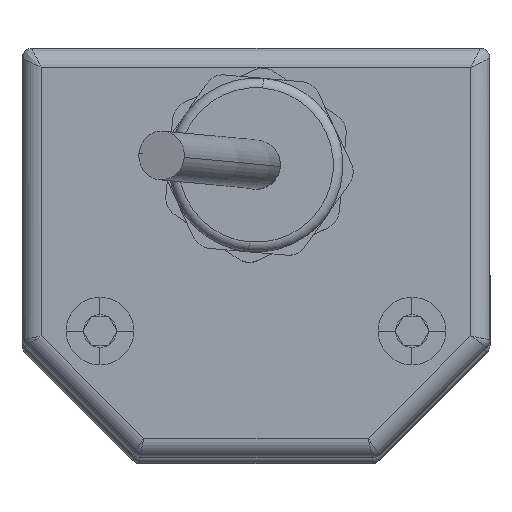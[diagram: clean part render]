
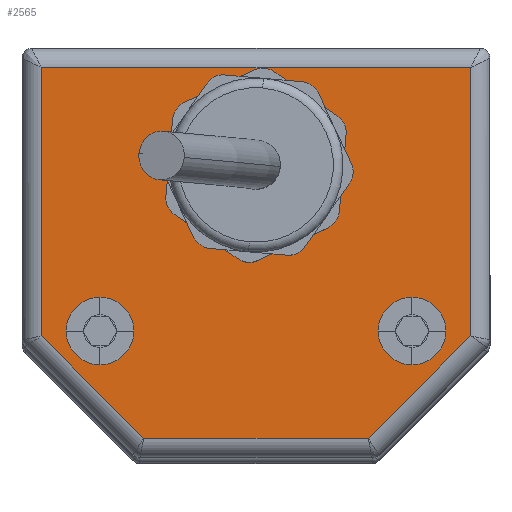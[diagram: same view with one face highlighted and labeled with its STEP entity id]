
A CAD part, top view. The second image highlights one B-rep face of the part: STEP entity #2565.
In plain terms, the highlighted planar face has unit normal (0, 0, 1).
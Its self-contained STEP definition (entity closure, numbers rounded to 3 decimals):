
#116 = FACE_OUTER_BOUND ( 'NONE', #13578, .T. ) ;
#188 = CARTESIAN_POINT ( 'NONE',  ( 16., -27., 8. ) ) ;
#270 = LINE ( 'NONE', #12670, #11830 ) ;
#560 = EDGE_LOOP ( 'NONE', ( #8010, #4369 ) ) ;
#580 = VERTEX_POINT ( 'NONE', #6396 ) ;
#605 = EDGE_CURVE ( 'NONE', #5228, #8556, #5443, .T. ) ;
#606 = VERTEX_POINT ( 'NONE', #9023 ) ;
#794 = CARTESIAN_POINT ( 'NONE',  ( -16., -27., 8. ) ) ;
#842 = CARTESIAN_POINT ( 'NONE',  ( 11.5, -38., 8. ) ) ;
#935 = CARTESIAN_POINT ( 'NONE',  ( 16., -27., 8. ) ) ;
#1257 = CARTESIAN_POINT ( 'NONE',  ( -11.5, -38., 8. ) ) ;
#1305 = DIRECTION ( 'NONE',  ( 0.707, -0.707, 0. ) ) ;
#1435 = DIRECTION ( 'NONE',  ( 0., 0., 1. ) ) ;
#1441 = CARTESIAN_POINT ( 'NONE',  ( 0., -10., 8. ) ) ;
#1584 = CIRCLE ( 'NONE', #11023, 3.47 ) ;
#1689 = CARTESIAN_POINT ( 'NONE',  ( 22., -27.5, 8. ) ) ;
#1769 = ORIENTED_EDGE ( 'NONE', *, *, #2111, .T. ) ;
#1845 = ORIENTED_EDGE ( 'NONE', *, *, #7100, .T. ) ;
#2111 = EDGE_CURVE ( 'NONE', #2671, #606, #6778, .T. ) ;
#2152 = CARTESIAN_POINT ( 'NONE',  ( 22., 0., 8. ) ) ;
#2435 = EDGE_CURVE ( 'NONE', #580, #7836, #15214, .T. ) ;
#2565 = ADVANCED_FACE ( 'NONE', ( #7559, #116, #15074, #14906 ), #16223, .T. ) ;
#2611 = DIRECTION ( 'NONE',  ( -1., 0., 0. ) ) ;
#2671 = VERTEX_POINT ( 'NONE', #6734 ) ;
#2749 = ORIENTED_EDGE ( 'NONE', *, *, #10623, .T. ) ;
#3573 = CARTESIAN_POINT ( 'NONE',  ( -22., 0., 8. ) ) ;
#3653 = VECTOR ( 'NONE', #10870, 1000. ) ;
#3665 = AXIS2_PLACEMENT_3D ( 'NONE', #5097, #3805, #11108 ) ;
#3724 = EDGE_CURVE ( 'NONE', #606, #2671, #7755, .T. ) ;
#3805 = DIRECTION ( 'NONE',  ( 0., 0., 1. ) ) ;
#3828 = LINE ( 'NONE', #8999, #6819 ) ;
#3938 = CIRCLE ( 'NONE', #12630, 3.47 ) ;
#4056 = CARTESIAN_POINT ( 'NONE',  ( 19.47, -27., 8. ) ) ;
#4197 = ORIENTED_EDGE ( 'NONE', *, *, #12826, .F. ) ;
#4369 = ORIENTED_EDGE ( 'NONE', *, *, #13324, .F. ) ;
#4606 = VECTOR ( 'NONE', #14647, 1000. ) ;
#4632 = EDGE_CURVE ( 'NONE', #9449, #14242, #7091, .T. ) ;
#4992 = CARTESIAN_POINT ( 'NONE',  ( -16., -27., 8. ) ) ;
#5097 = CARTESIAN_POINT ( 'NONE',  ( 0., 0., 8. ) ) ;
#5228 = VERTEX_POINT ( 'NONE', #14130 ) ;
#5301 = CARTESIAN_POINT ( 'NONE',  ( 0., -10., 8. ) ) ;
#5443 = CIRCLE ( 'NONE', #13850, 3.47 ) ;
#5878 = EDGE_CURVE ( 'NONE', #14242, #12250, #3828, .T. ) ;
#5992 = AXIS2_PLACEMENT_3D ( 'NONE', #5301, #15348, #12114 ) ;
#6204 = CARTESIAN_POINT ( 'NONE',  ( -22., 0., 8. ) ) ;
#6310 = EDGE_CURVE ( 'NONE', #12873, #14223, #270, .T. ) ;
#6350 = DIRECTION ( 'NONE',  ( 0., 0., -1. ) ) ;
#6396 = CARTESIAN_POINT ( 'NONE',  ( 12.53, -27., 8. ) ) ;
#6734 = CARTESIAN_POINT ( 'NONE',  ( 5.75, -10., 8. ) ) ;
#6778 = CIRCLE ( 'NONE', #5992, 5.75 ) ;
#6819 = VECTOR ( 'NONE', #2611, 1000. ) ;
#7091 = LINE ( 'NONE', #9576, #3653 ) ;
#7100 = EDGE_CURVE ( 'NONE', #12250, #15140, #12457, .T. ) ;
#7559 = FACE_BOUND ( 'NONE', #8285, .T. ) ;
#7622 = DIRECTION ( 'NONE',  ( 0., 0., 1. ) ) ;
#7755 = CIRCLE ( 'NONE', #10654, 5.75 ) ;
#7836 = VERTEX_POINT ( 'NONE', #4056 ) ;
#8010 = ORIENTED_EDGE ( 'NONE', *, *, #605, .F. ) ;
#8285 = EDGE_LOOP ( 'NONE', ( #1769, #15767 ) ) ;
#8526 = EDGE_CURVE ( 'NONE', #14223, #9449, #15819, .T. ) ;
#8556 = VERTEX_POINT ( 'NONE', #16067 ) ;
#8692 = VECTOR ( 'NONE', #13851, 1000. ) ;
#8999 = CARTESIAN_POINT ( 'NONE',  ( 0., 0., 8. ) ) ;
#9023 = CARTESIAN_POINT ( 'NONE',  ( -5.75, -10., 8. ) ) ;
#9449 = VERTEX_POINT ( 'NONE', #1689 ) ;
#9566 = DIRECTION ( 'NONE',  ( 0., 0., 1. ) ) ;
#9576 = CARTESIAN_POINT ( 'NONE',  ( 22., 0., 8. ) ) ;
#9633 = CARTESIAN_POINT ( 'NONE',  ( 24.75, -24.75, 8. ) ) ;
#10021 = DIRECTION ( 'NONE',  ( 1., 0., 0. ) ) ;
#10042 = DIRECTION ( 'NONE',  ( 1., 0., 0. ) ) ;
#10623 = EDGE_CURVE ( 'NONE', #15140, #12873, #15427, .T. ) ;
#10654 = AXIS2_PLACEMENT_3D ( 'NONE', #1441, #6350, #16226 ) ;
#10798 = DIRECTION ( 'NONE',  ( 0., 0., 1. ) ) ;
#10870 = DIRECTION ( 'NONE',  ( 0., 1., 0. ) ) ;
#10970 = VECTOR ( 'NONE', #1305, 1000. ) ;
#11023 = AXIS2_PLACEMENT_3D ( 'NONE', #794, #10798, #13347 ) ;
#11108 = DIRECTION ( 'NONE',  ( 1., 0., 0. ) ) ;
#11830 = VECTOR ( 'NONE', #12815, 1000. ) ;
#12114 = DIRECTION ( 'NONE',  ( 1., 0., 0. ) ) ;
#12150 = ORIENTED_EDGE ( 'NONE', *, *, #5878, .T. ) ;
#12218 = ORIENTED_EDGE ( 'NONE', *, *, #8526, .T. ) ;
#12250 = VERTEX_POINT ( 'NONE', #3573 ) ;
#12290 = AXIS2_PLACEMENT_3D ( 'NONE', #935, #9566, #14498 ) ;
#12457 = LINE ( 'NONE', #6204, #8692 ) ;
#12539 = CARTESIAN_POINT ( 'NONE',  ( -24.75, -24.75, 8. ) ) ;
#12630 = AXIS2_PLACEMENT_3D ( 'NONE', #188, #1435, #10042 ) ;
#12670 = CARTESIAN_POINT ( 'NONE',  ( 0., -38., 8. ) ) ;
#12815 = DIRECTION ( 'NONE',  ( 1., 0., 0. ) ) ;
#12826 = EDGE_CURVE ( 'NONE', #7836, #580, #3938, .T. ) ;
#12873 = VERTEX_POINT ( 'NONE', #1257 ) ;
#13324 = EDGE_CURVE ( 'NONE', #8556, #5228, #1584, .T. ) ;
#13347 = DIRECTION ( 'NONE',  ( 1., 0., 0. ) ) ;
#13578 = EDGE_LOOP ( 'NONE', ( #12218, #13736, #12150, #1845, #2749, #15588 ) ) ;
#13736 = ORIENTED_EDGE ( 'NONE', *, *, #4632, .T. ) ;
#13850 = AXIS2_PLACEMENT_3D ( 'NONE', #4992, #7622, #10021 ) ;
#13851 = DIRECTION ( 'NONE',  ( 0., -1., 0. ) ) ;
#13894 = EDGE_LOOP ( 'NONE', ( #4197, #14681 ) ) ;
#14130 = CARTESIAN_POINT ( 'NONE',  ( -12.53, -27., 8. ) ) ;
#14223 = VERTEX_POINT ( 'NONE', #842 ) ;
#14242 = VERTEX_POINT ( 'NONE', #2152 ) ;
#14498 = DIRECTION ( 'NONE',  ( 1., 0., 0. ) ) ;
#14647 = DIRECTION ( 'NONE',  ( 0.707, 0.707, 0. ) ) ;
#14681 = ORIENTED_EDGE ( 'NONE', *, *, #2435, .F. ) ;
#14906 = FACE_BOUND ( 'NONE', #13894, .T. ) ;
#15074 = FACE_BOUND ( 'NONE', #560, .T. ) ;
#15140 = VERTEX_POINT ( 'NONE', #15569 ) ;
#15214 = CIRCLE ( 'NONE', #12290, 3.47 ) ;
#15348 = DIRECTION ( 'NONE',  ( 0., 0., -1. ) ) ;
#15427 = LINE ( 'NONE', #12539, #10970 ) ;
#15569 = CARTESIAN_POINT ( 'NONE',  ( -22., -27.5, 8. ) ) ;
#15588 = ORIENTED_EDGE ( 'NONE', *, *, #6310, .T. ) ;
#15767 = ORIENTED_EDGE ( 'NONE', *, *, #3724, .T. ) ;
#15819 = LINE ( 'NONE', #9633, #4606 ) ;
#16067 = CARTESIAN_POINT ( 'NONE',  ( -19.47, -27., 8. ) ) ;
#16223 = PLANE ( 'NONE',  #3665 ) ;
#16226 = DIRECTION ( 'NONE',  ( 1., 0., 0. ) ) ;
